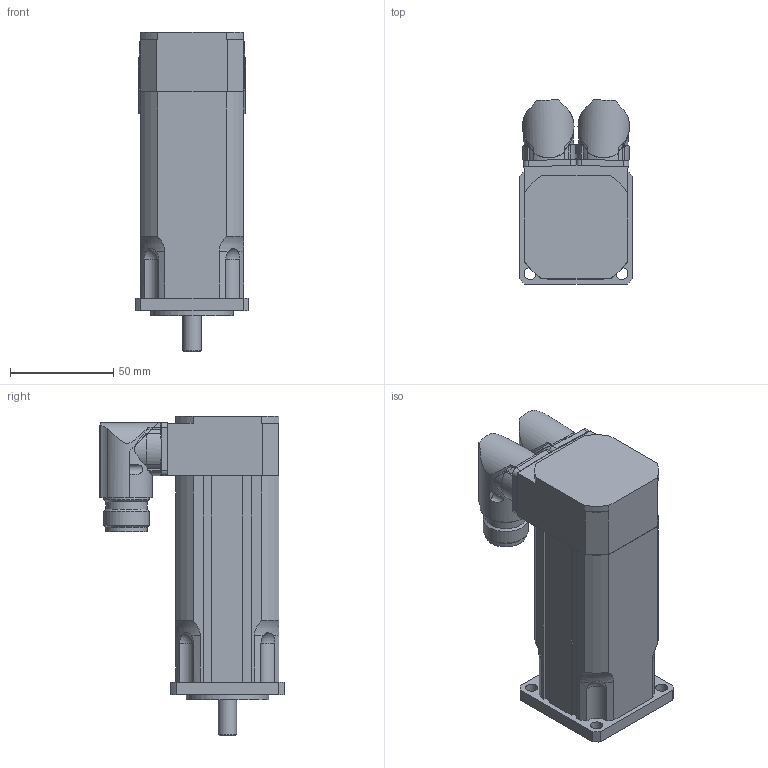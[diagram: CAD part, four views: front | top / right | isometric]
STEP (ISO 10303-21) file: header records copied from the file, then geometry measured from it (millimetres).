
FILE_DESCRIPTION(/* description */ ('Alibre Inc.'),/* implementation_level */ '2;1');
FILE_NAME(/* name */ 'export0',/* time_stamp */ '2011-07-28T07:24:25+02:00',/* author */ (''),/* organization */ (''),/* preprocessor_version */ 'ST-DEVELOPER v12',/* originating_system */ 'Alibre',/* authorisation */ '');
FILE_SCHEMA (('CONFIG_CONTROL_DESIGN'));
Length unit declared in the file: millimetre
Products named in the file (4): ID_1
Bounding box: 55 x 89.22 x 155 mm (x, y, z)
Volume: 375433.2 mm3; surface area: 56379.1 mm2
Topology: 4 solids, 4 shells, 227 faces, 614 edges, 405 vertices
Faces by surface type: cylinder 113, plane 89, bspline 10, cone 7, sphere 4, torus 4
Full cylindrical faces by diameter (mm): 2.7 x8, 9 x1, 20 x6, 22 x4, 26 x1, 40 x1
Entity records: 6119 total; most frequent: CARTESIAN_POINT 1792, ORIENTED_EDGE 808, DIRECTION 770, EDGE_CURVE 404, AXIS2_PLACEMENT_3D 319, VERTEX_POINT 281, EDGE_LOOP 205, FACE_BOUND 205
